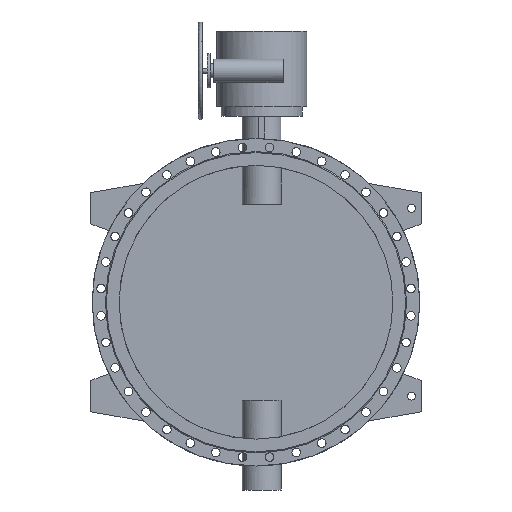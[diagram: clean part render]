
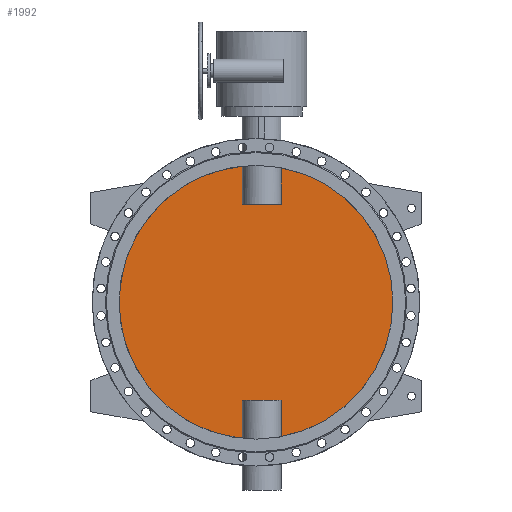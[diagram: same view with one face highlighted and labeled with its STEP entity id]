
A CAD part, front view. The second image highlights one B-rep face of the part: STEP entity #1992.
In plain terms, the highlighted planar face has unit normal (0, -1, 0).
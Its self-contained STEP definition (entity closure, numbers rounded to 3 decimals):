
#1992=ADVANCED_FACE('',(#4237),#4239,.F.);
#4237=FACE_BOUND('',#4238,.T.);
#4238=EDGE_LOOP('',(#5276,#5277,#5278,#5279,#5280,#5281,#5282,#5283));
#4239=PLANE('',#4240);
#4240=AXIS2_PLACEMENT_3D('',#4241,#4242,#4243);
#4241=CARTESIAN_POINT('',(0.,-5.,0.));
#4242=DIRECTION('',(0.,1.,0.));
#4243=DIRECTION('',(1.,0.,0.));
#5276=ORIENTED_EDGE('',*,*,#5775,.T.);
#5277=ORIENTED_EDGE('',*,*,#5781,.T.);
#5278=ORIENTED_EDGE('',*,*,#5782,.T.);
#5279=ORIENTED_EDGE('',*,*,#5783,.T.);
#5280=ORIENTED_EDGE('',*,*,#5777,.T.);
#5281=ORIENTED_EDGE('',*,*,#5784,.T.);
#5282=ORIENTED_EDGE('',*,*,#5785,.T.);
#5283=ORIENTED_EDGE('',*,*,#5786,.T.);
#5775=EDGE_CURVE('',#6621,#6622,#6623,.F.);
#5777=EDGE_CURVE('',#6626,#6624,#6627,.F.);
#5781=EDGE_CURVE('',#6622,#6633,#6634,.T.);
#5782=EDGE_CURVE('',#6633,#6635,#6636,.F.);
#5783=EDGE_CURVE('',#6635,#6626,#6637,.F.);
#5784=EDGE_CURVE('',#6624,#6638,#6639,.F.);
#5785=EDGE_CURVE('',#6638,#6640,#6641,.F.);
#5786=EDGE_CURVE('',#6640,#6621,#6642,.T.);
#6621=VERTEX_POINT('',#9481);
#6622=VERTEX_POINT('',#9482);
#6623=CIRCLE('',#9483,700.);
#6624=VERTEX_POINT('',#9487);
#6626=VERTEX_POINT('',#9548);
#6627=CIRCLE('',#9549,700.);
#6633=VERTEX_POINT('',#9688);
#6634=LINE('',#9689,#9690);
#6635=VERTEX_POINT('',#9692);
#6636=LINE('',#9693,#9694);
#6637=LINE('',#9696,#9697);
#6638=VERTEX_POINT('',#9699);
#6639=LINE('',#9700,#9701);
#6640=VERTEX_POINT('',#9703);
#6641=LINE('',#9704,#9705);
#6642=LINE('',#9707,#9708);
#9481=CARTESIAN_POINT('',(129.875,-5.,-687.846));
#9482=CARTESIAN_POINT('',(129.875,-5.,687.846));
#9483=AXIS2_PLACEMENT_3D('',#9484,#9485,#9486);
#9484=CARTESIAN_POINT('',(0.,-5.,0.));
#9485=DIRECTION('',(0.,1.,0.));
#9486=DIRECTION('',(0.186,0.,0.983));
#9487=CARTESIAN_POINT('',(-69.875,-5.,-696.504));
#9548=CARTESIAN_POINT('',(-69.875,-5.,696.504));
#9549=AXIS2_PLACEMENT_3D('',#9550,#9551,#9552);
#9550=CARTESIAN_POINT('',(0.,-5.,0.));
#9551=DIRECTION('',(0.,1.,0.));
#9552=DIRECTION('',(-0.1,0.,-0.995));
#9688=CARTESIAN_POINT('',(129.875,-5.,500.));
#9689=CARTESIAN_POINT('',(129.875,-5.,687.846));
#9690=VECTOR('',#9691,1.);
#9691=DIRECTION('',(0.,0.,-1.));
#9692=CARTESIAN_POINT('',(-69.875,-5.,500.));
#9693=CARTESIAN_POINT('',(-69.875,-5.,500.));
#9694=VECTOR('',#9695,1.);
#9695=DIRECTION('',(1.,0.,0.));
#9696=CARTESIAN_POINT('',(-69.875,-5.,696.504));
#9697=VECTOR('',#9698,1.);
#9698=DIRECTION('',(0.,0.,-1.));
#9699=CARTESIAN_POINT('',(-69.875,-5.,-500.));
#9700=CARTESIAN_POINT('',(-69.875,-5.,-500.));
#9701=VECTOR('',#9702,1.);
#9702=DIRECTION('',(0.,0.,-1.));
#9703=CARTESIAN_POINT('',(129.875,-5.,-500.));
#9704=CARTESIAN_POINT('',(129.875,-5.,-500.));
#9705=VECTOR('',#9706,1.);
#9706=DIRECTION('',(-1.,0.,0.));
#9707=CARTESIAN_POINT('',(129.875,-5.,-500.));
#9708=VECTOR('',#9709,1.);
#9709=DIRECTION('',(0.,0.,-1.));
